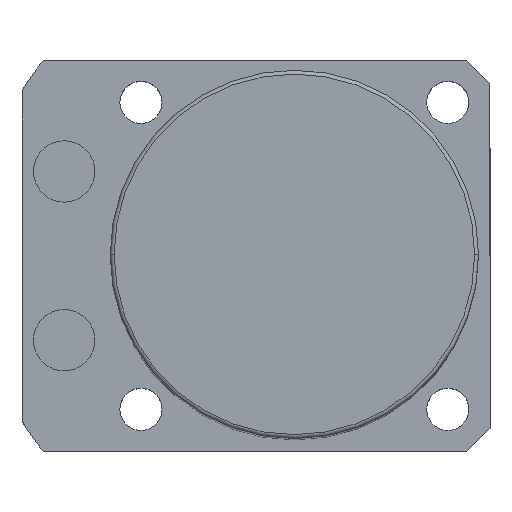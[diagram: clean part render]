
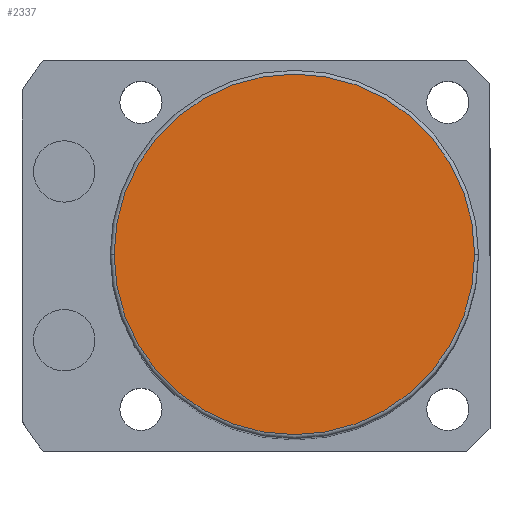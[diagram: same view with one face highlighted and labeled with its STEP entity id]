
A CAD part, top view. The second image highlights one B-rep face of the part: STEP entity #2337.
In plain terms, the highlighted planar face has unit normal (0, 0, 1).
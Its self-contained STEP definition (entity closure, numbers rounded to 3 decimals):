
#107 = ORIENTED_EDGE ( 'NONE', *, *, #586, .T. ) ;
#444 = FACE_OUTER_BOUND ( 'NONE', #2009, .T. ) ;
#464 = DIRECTION ( 'NONE',  ( 0., 0., 1. ) ) ;
#510 = ORIENTED_EDGE ( 'NONE', *, *, #2511, .T. ) ;
#557 = AXIS2_PLACEMENT_3D ( 'NONE', #2514, #2298, #764 ) ;
#582 = CARTESIAN_POINT ( 'NONE',  ( 0., 0., 121. ) ) ;
#586 = EDGE_CURVE ( 'NONE', #2392, #1953, #1726, .T. ) ;
#651 = DIRECTION ( 'NONE',  ( 1., 0., 0. ) ) ;
#764 = DIRECTION ( 'NONE',  ( 1., 0., 0. ) ) ;
#801 = DIRECTION ( 'NONE',  ( 1., 0., 0. ) ) ;
#983 = CIRCLE ( 'NONE', #1196, 23.5 ) ;
#1196 = AXIS2_PLACEMENT_3D ( 'NONE', #2393, #464, #651 ) ;
#1264 = CARTESIAN_POINT ( 'NONE',  ( -23.5, 0., 121. ) ) ;
#1308 = PLANE ( 'NONE',  #557 ) ;
#1544 = DIRECTION ( 'NONE',  ( 0., 0., 1. ) ) ;
#1726 = CIRCLE ( 'NONE', #1982, 23.5 ) ;
#1953 = VERTEX_POINT ( 'NONE', #1264 ) ;
#1982 = AXIS2_PLACEMENT_3D ( 'NONE', #582, #1544, #801 ) ;
#2009 = EDGE_LOOP ( 'NONE', ( #107, #510 ) ) ;
#2298 = DIRECTION ( 'NONE',  ( 0., 0., 1. ) ) ;
#2314 = CARTESIAN_POINT ( 'NONE',  ( 23.5, 0., 121. ) ) ;
#2337 = ADVANCED_FACE ( 'NONE', ( #444 ), #1308, .T. ) ;
#2392 = VERTEX_POINT ( 'NONE', #2314 ) ;
#2393 = CARTESIAN_POINT ( 'NONE',  ( 0., 0., 121. ) ) ;
#2511 = EDGE_CURVE ( 'NONE', #1953, #2392, #983, .T. ) ;
#2514 = CARTESIAN_POINT ( 'NONE',  ( 0., 0., 121. ) ) ;
